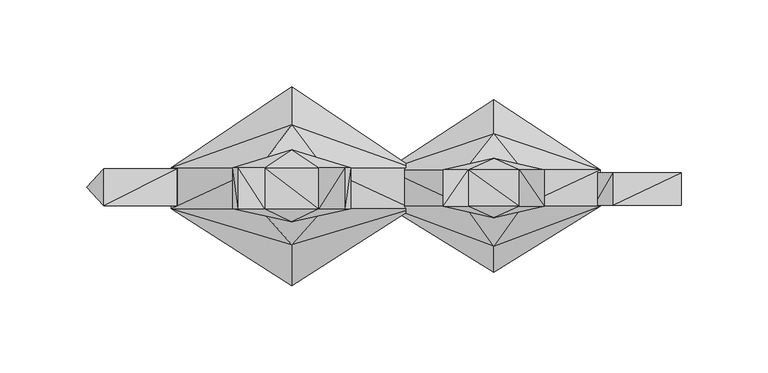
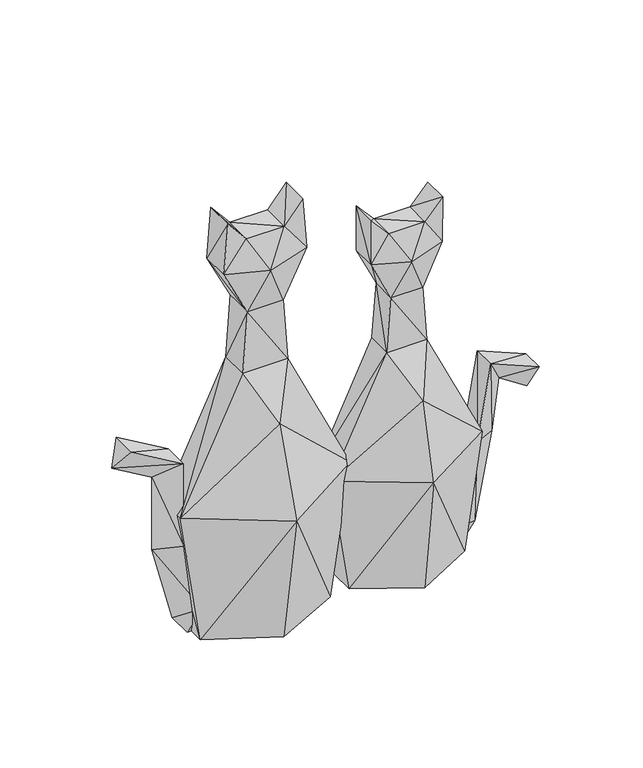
"""IFC4 building model written with IfcOpenShell, lengths in millimetres: geographic element geometry, Enscape AssetDefinition - Sculpture, Cats 1 : Enscape AssetDefinition - Sculpture, Cats 1."""

from ifc_helpers import new_model, si_unit, origin, place, context, project, spatial, faceted_brep, source, transform, mapped, element, save


def geographic_element_e5f93e43(model_context):
    return source(origin(), model_context, "Body", "Brep", [
        faceted_brep([(32.011658, -10.4714474, 273.7434506), (61.0676594, -17.168548, 270.2483237), (46.2993383, -10.4714474, 295.6705689), (75.8359805, -10.4714474, 295.6705689), (90.1236534, -10.4714474, 273.7434506), (74.1437525, -10.4714474, 239.7154868), (47.9925573, -10.4714474, 239.7154868), (46.2993383, 10.5532175, 295.6705689), (31.921912, -10.4714474, 311.9536042), (90.2144015, -10.4714474, 311.9536042), (75.8359805, 10.5532175, 295.6705689), (61.0676594, 17.2503181, 270.7259655), (32.011658, 10.5532175, 273.7434506), (31.921912, 10.5532175, 311.9536042), (47.9925573, 10.5532175, 239.7154868), (90.1236534, 10.5532175, 273.7434506), (74.1437525, 10.5532175, 239.7154868), (90.2144015, 10.5532175, 311.9536042), (44.6509905, 10.5532175, 193.4999228), (77.4843246, -10.4714474, 193.4999228), (77.4843246, 10.5532175, 193.4999228), (44.6509905, -10.4714474, 193.4999228), (61.0676594, -33.5184075, 160.1141393), (122.7565631, -10.4714474, 98.1141105), (122.7565631, 10.5532175, 98.1141105), (61.0676594, 31.367477, 160.1141393), (61.0676594, 51.0808416, 98.3394757), (108.1936657, 10.5532175, 0.0), (61.0676594, -48.6487076, 98.3394757), (108.1936657, -10.4714474, 0.0), (-0.6202495, -10.4714474, 98.1141105), (61.0676594, -35.8538143, 0.0), (13.9416549, -10.4714474, 0.0), (61.0676594, 37.2359119, 0.0), (13.9426524, 10.5532175, 0.0), (-0.6202495, 10.5532175, 98.1141105)], [[[0, 1, 2]], [[3, 1, 4]], [[4, 1, 5]], [[2, 1, 3]], [[6, 1, 0]], [[1, 6, 5]], [[7, 8, 2]], [[7, 2, 3]], [[0, 2, 8]], [[3, 9, 10]], [[7, 3, 10]], [[3, 4, 9]], [[7, 11, 12]], [[13, 8, 7]], [[10, 11, 7]], [[7, 12, 13]], [[13, 0, 8]], [[12, 0, 13]], [[14, 12, 11]], [[14, 0, 12]], [[15, 11, 10]], [[11, 15, 16]], [[11, 16, 14]], [[10, 9, 17]], [[15, 10, 17]], [[9, 4, 17]], [[17, 4, 15]], [[15, 4, 16]], [[16, 4, 5]], [[18, 14, 16]], [[5, 19, 16]], [[18, 16, 20]], [[16, 19, 20]], [[19, 5, 6]], [[6, 0, 14]], [[14, 21, 6]], [[19, 6, 21]], [[22, 19, 21]], [[19, 22, 23]], [[20, 19, 24]], [[24, 19, 23]], [[18, 20, 25]], [[25, 20, 24]], [[26, 24, 27]], [[24, 23, 27]], [[25, 24, 26]], [[23, 28, 29]], [[23, 22, 28]], [[27, 23, 29]], [[28, 22, 30]], [[30, 22, 21]], [[31, 28, 32]], [[32, 28, 30]], [[29, 28, 31]], [[31, 33, 29]], [[29, 33, 27]], [[26, 27, 33]], [[33, 31, 32]], [[33, 32, 34]], [[34, 26, 33]], [[34, 35, 26]], [[35, 25, 26]], [[32, 30, 34]], [[34, 30, 35]], [[30, 21, 35]], [[35, 18, 25]], [[35, 21, 18]], [[14, 18, 21]]]),
        faceted_brep([(105.9041247, 8.9028748, 21.9241269), (122.2320423, -0.5215282, 15.0535163), (111.3128588, -0.5215282, 0.0), (105.9041247, -9.9459309, 21.9241269), (136.3372356, -0.5215282, 87.6286924), (118.8236624, -9.9459309, 89.8633897), (95.2821076, -0.5215282, 0.0), (118.8236624, 8.9028748, 89.8633897), (129.8505366, -9.9459309, 153.4938216), (129.8505366, 8.9028748, 153.4938216), (141.790852, -0.5215282, 131.6753924), (164.8418009, -0.5215282, 116.6158915), (169.4886833, 8.9028748, 137.0562017), (169.4886833, -9.9459309, 137.0562017)], [[[0, 1, 2]], [[3, 2, 1]], [[0, 4, 1]], [[1, 5, 3]], [[5, 1, 4]], [[2, 3, 6]], [[0, 2, 6]], [[0, 6, 3]], [[4, 0, 7]], [[3, 7, 0]], [[7, 3, 5]], [[4, 8, 5]], [[5, 9, 7]], [[9, 5, 8]], [[7, 10, 4]], [[8, 4, 10]], [[10, 7, 9]], [[9, 11, 10]], [[11, 9, 12]], [[8, 12, 9]], [[10, 13, 8]], [[12, 8, 13]], [[13, 10, 11]], [[11, 12, 13]]]),
        faceted_brep([(-21.442486, 11.6710626, 308.4704578), (-55.5452444, 22.0866688, 304.5315742), (-39.9971232, 11.6710626, 333.1797123), (-71.0923672, 11.6710626, 333.1797123), (-89.6470025, 11.6710626, 308.4704578), (-70.2796578, 11.6710626, 270.1256573), (-40.8108234, 11.6710626, 270.1256573), (-39.9971232, -12.021075, 333.1797123), (-24.8598419, 11.6710626, 351.5279293), (-86.2296447, 11.6710626, 351.5279293), (-71.0923672, -12.021075, 333.1797123), (-55.5452444, -19.5677783, 305.0690591), (-21.442486, -12.021075, 308.4704578), (-24.8598419, -12.021075, 351.5279293), (-40.8108234, -12.021075, 270.1256573), (-89.6470025, -12.021075, 308.4704578), (-70.2796578, -12.021075, 270.1256573), (-86.2296447, -12.021075, 351.5279293), (-37.0454527, -12.021075, 218.0476487), (-74.0440413, 11.6710626, 218.0476487), (-74.0440413, -12.021075, 218.0476487), (-37.0454527, 11.6710626, 218.0476487), (-55.5452444, 36.6475768, 180.4258078), (-125.0590682, 11.6710626, 110.559985), (-125.0590682, -12.021075, 110.559985), (-55.5452444, -32.8183807, 180.4258078), (-55.5452444, -56.5384403, 110.8142734), (-108.6493805, -12.021075, 0.0), (-55.5452444, 58.5208461, 110.8142734), (-108.6493805, 11.6710626, 0.0), (13.969576, 11.6710626, 110.559985), (-55.5452444, 38.9530696, 0.0), (-2.4411108, 11.6710626, 0.0), (-55.5452444, -38.3019075, 0.0), (-2.4411108, -12.021075, 0.0), (13.969576, -12.021075, 110.559985)], [[[0, 1, 2]], [[3, 1, 4]], [[4, 1, 5]], [[2, 1, 3]], [[6, 1, 0]], [[1, 6, 5]], [[7, 8, 2]], [[7, 2, 3]], [[0, 2, 8]], [[3, 9, 10]], [[7, 3, 10]], [[3, 4, 9]], [[7, 11, 12]], [[13, 8, 7]], [[10, 11, 7]], [[7, 12, 13]], [[13, 0, 8]], [[12, 0, 13]], [[14, 12, 11]], [[14, 0, 12]], [[15, 11, 10]], [[11, 15, 16]], [[11, 16, 14]], [[10, 9, 17]], [[15, 10, 17]], [[9, 4, 17]], [[17, 4, 15]], [[15, 4, 16]], [[16, 4, 5]], [[18, 14, 16]], [[5, 19, 16]], [[18, 16, 20]], [[16, 19, 20]], [[19, 5, 6]], [[6, 0, 14]], [[14, 21, 6]], [[19, 6, 21]], [[22, 19, 21]], [[19, 22, 23]], [[20, 19, 24]], [[24, 19, 23]], [[18, 20, 25]], [[25, 20, 24]], [[26, 24, 27]], [[24, 23, 27]], [[25, 24, 26]], [[23, 28, 29]], [[23, 22, 28]], [[27, 23, 29]], [[28, 22, 30]], [[30, 22, 21]], [[31, 28, 32]], [[32, 28, 30]], [[29, 28, 31]], [[31, 33, 29]], [[29, 33, 27]], [[26, 27, 33]], [[33, 31, 32]], [[33, 32, 34]], [[34, 26, 33]], [[34, 35, 26]], [[35, 25, 26]], [[32, 30, 34]], [[34, 30, 35]], [[30, 21, 35]], [[35, 18, 25]], [[35, 21, 18]], [[14, 18, 21]]]),
        faceted_brep([(-106.0686558, -10.1613235, 24.7052778), (-124.4687364, 0.4587055, 16.963128), (-112.1634617, 0.4587055, 0.0), (-106.0686558, 11.0787349, 24.7052778), (-140.9452409, 0.4587055, 81.3613832), (-121.2099269, 11.0787349, 83.8802829), (-94.0994322, 0.4587055, 0.0), (-121.2099269, -10.1613235, 83.8802829), (-121.4522421, 11.0787349, 155.550018), (-121.4522421, -10.1613235, 155.550018), (-141.1586255, 0.4587055, 144.172132), (-173.8792956, 0.4587055, 163.2094085), (-163.9493108, -10.1613235, 180.2752316), (-163.9493108, 11.0787349, 180.2752316)], [[[0, 1, 2]], [[3, 2, 1]], [[0, 4, 1]], [[1, 5, 3]], [[5, 1, 4]], [[2, 3, 6]], [[0, 2, 6]], [[0, 6, 3]], [[4, 0, 7]], [[3, 7, 0]], [[7, 3, 5]], [[4, 8, 5]], [[5, 9, 7]], [[9, 5, 8]], [[7, 10, 4]], [[8, 4, 10]], [[10, 7, 9]], [[9, 11, 10]], [[11, 9, 12]], [[8, 12, 9]], [[10, 13, 8]], [[12, 8, 13]], [[13, 10, 11]], [[11, 12, 13]]]),
    ])


if __name__ == "__main__":
    model = new_model("IFC4")
    model_context = context("Model", 3, world=origin())
    ifc_project = project(units=[si_unit("LENGTHUNIT", "METRE", prefix="MILLI")], contexts=[model_context])
    site = spatial("IfcSite", under=ifc_project)
    building = spatial("IfcBuilding", under=site)
    placement = place(None, origin())
    geographic_element_shape = geographic_element_e5f93e43(model_context)
    element("IfcGeographicElement", 1, ObjectType="Enscape AssetDefinition - Sculpture, Cats 1 : Enscape AssetDefinition - Sculpture, Cats 1", at=placement, inside=building, context=model_context, shape_type="MappedRepresentation", body=[
        mapped(geographic_element_shape, transform((0.0, 0.0, 0.0), x_axis=(1.0, 0.0, 0.0), y_axis=(0.0, 1.0, 0.0), z_axis=(0.0, 0.0, 1.0))),
    ])
    save(model, "model.ifc")
